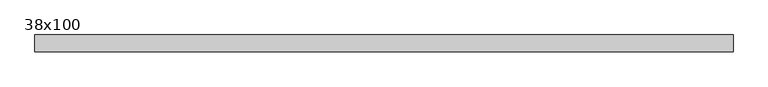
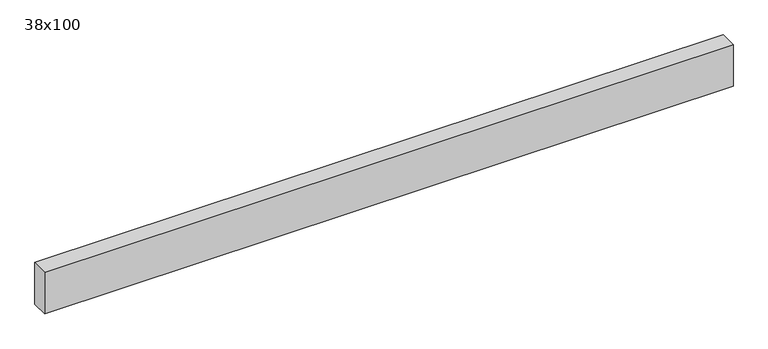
"""IFC4 building model written with IfcOpenShell, lengths in millimetres: beam geometry, Poutre - Bois de construction de dimensions courantes : 38x100."""

import ifcopenshell
import ifcopenshell.guid

model = None  # the IFC model being written
_history = None  # IfcOwnerHistory: only IFC2X3 demands one
_inside = {}  # id of a spatial element -> (the spatial element, [elements in it])
_under = {}  # id of a project, library or spatial element -> (it, [spatial elements below it])
_declared = {}  # id of a project -> (the project, [libraries it declares])
_typed = {}  # id of a type object -> (the type object, [elements of that type])
_made_of = {}  # id of a material, layer set ... -> (it, [elements and type objects made of it])


def new_model(schema):
    """Start an empty IFC model of exactly this schema.

    Asked for "IFC4X3", IfcOpenShell would pick the latest addendum, in which some entities
    have other attributes; the version numbers below select the first issue.
    IFC2X3 requires an IfcOwnerHistory on every rooted entity: one is made here for all.
    """
    global model, _history
    if schema == "IFC4X3":
        model = ifcopenshell.file(schema_version=(4, 3, 0, 0))
    else:
        model = ifcopenshell.file(schema=schema)
    _inside.clear()
    _under.clear()
    _declared.clear()
    _typed.clear()
    _made_of.clear()
    _history = None
    if model.schema == "IFC2X3":
        org = make("IfcOrganization", Name="unknown")
        user = make(
            "IfcPersonAndOrganization",
            ThePerson=make("IfcPerson", FamilyName="unknown"),
            TheOrganization=org,
        )
        app = make(
            "IfcApplication",
            ApplicationDeveloper=org,
            Version="unknown",
            ApplicationFullName="unknown",
            ApplicationIdentifier="unknown",
        )
        _history = make(
            "IfcOwnerHistory",
            OwningUser=user,
            OwningApplication=app,
            ChangeAction="ADDED",
            CreationDate=0,
        )
    return model


def make(cls, **values):
    """One entity of the class cls with the attributes given. An attribute that is None is left unset."""
    return model.create_entity(
        cls, **{name: value for name, value in values.items() if value is not None}
    )


def rooted(cls, **values):
    """An entity with a GlobalId (a new one), such as an element, a storey or a relation."""
    return make(cls, GlobalId=ifcopenshell.guid.new(), OwnerHistory=_history, **values)


def si_unit(unit_type, name, prefix=None):
    """IfcSIUnit, for example si_unit("LENGTHUNIT", "METRE", prefix="MILLI")."""
    return make("IfcSIUnit", UnitType=unit_type, Prefix=prefix, Name=name)


def assignment(units):
    """IfcUnitAssignment: the units of a project."""
    return None if units is None else make("IfcUnitAssignment", Units=units)


def point(xyz):
    """IfcCartesianPoint."""
    return None if xyz is None else make("IfcCartesianPoint", Coordinates=xyz)


def direction(xyz):
    """IfcDirection."""
    return None if xyz is None else make("IfcDirection", DirectionRatios=xyz)


def frame(location, z_axis=None, x_axis=None):
    """IfcAxis2Placement3D, a coordinate frame: its origin and axes. An axis left out is left unset."""
    return make(
        "IfcAxis2Placement3D",
        Location=point(location),
        Axis=direction(z_axis),
        RefDirection=direction(x_axis),
    )


def origin():
    """The frame at (0, 0, 0) with its axes left unset."""
    return frame((0.0, 0.0, 0.0))


def place(relative_to, where):
    """IfcLocalPlacement: puts the frame where relative to a parent placement (None: the world)."""
    return make(
        "IfcLocalPlacement", PlacementRelTo=relative_to, RelativePlacement=where
    )


def context(
    kind, dimensions, precision=None, world=None, true_north=None, identifier=None
):
    """IfcGeometricRepresentationContext, for example the 3D "Model" context."""
    return make(
        "IfcGeometricRepresentationContext",
        ContextIdentifier=identifier,
        ContextType=kind,
        CoordinateSpaceDimension=dimensions,
        Precision=precision,
        WorldCoordinateSystem=world,
        TrueNorth=true_north,
    )


def project(units=None, contexts=None):
    """IfcProject with its units and contexts."""
    return rooted(
        "IfcProject",
        Name="project",
        RepresentationContexts=contexts,
        UnitsInContext=assignment(units),
    )


def spatial(cls, under=None, at=None, **own):
    """A site, building, storey or space (cls), placed at a placement, below another one or the project."""
    s = rooted(cls, ObjectPlacement=at, **own)
    if under is not None:
        _under.setdefault(under.id(), (under, []))[1].append(s)
    return s


def polyline(points):
    """IfcPolyline through the points."""
    return make("IfcPolyline", Points=[point(p) for p in points])


def outline(outer, holes=None, kind="AREA"):
    """IfcArbitraryClosedProfileDef: a profile drawn as a closed curve; with holes, ...WithVoids."""
    if holes is None:
        return make("IfcArbitraryClosedProfileDef", ProfileType=kind, OuterCurve=outer)
    return make(
        "IfcArbitraryProfileDefWithVoids",
        ProfileType=kind,
        OuterCurve=outer,
        InnerCurves=holes,
    )


def extrude(swept, where, along, depth):
    """IfcExtrudedAreaSolid: the profile swept, set in the frame where, extruded along a direction by depth."""
    return make(
        "IfcExtrudedAreaSolid",
        SweptArea=swept,
        Position=where,
        ExtrudedDirection=direction(along),
        Depth=depth,
    )


def shape(context_of_items, identifier, shape_type, items):
    """IfcShapeRepresentation: the items that make up one representation, for example the "Body"."""
    return make(
        "IfcShapeRepresentation",
        ContextOfItems=context_of_items,
        RepresentationIdentifier=identifier,
        RepresentationType=shape_type,
        Items=items,
    )


def source(mapping_origin, context_of_items, identifier, shape_type, items):
    """IfcRepresentationMap: a shape defined once, which mapped items show again and again."""
    return make(
        "IfcRepresentationMap",
        MappingOrigin=mapping_origin,
        MappedRepresentation=shape(context_of_items, identifier, shape_type, items),
    )


def transform(
    local_origin,
    x_axis=None,
    y_axis=None,
    z_axis=None,
    scale=None,
    scale2=None,
    scale3=None,
    uniform=True,
):
    """IfcCartesianTransformationOperator3D, or its non-uniform kind. x_axis, y_axis, z_axis: its Axis1, 2, 3."""
    if uniform:
        return make(
            "IfcCartesianTransformationOperator3D",
            Axis1=direction(x_axis),
            Axis2=direction(y_axis),
            LocalOrigin=point(local_origin),
            Scale=scale,
            Axis3=direction(z_axis),
        )
    return make(
        "IfcCartesianTransformationOperator3DnonUniform",
        Axis1=direction(x_axis),
        Axis2=direction(y_axis),
        LocalOrigin=point(local_origin),
        Scale=scale,
        Axis3=direction(z_axis),
        Scale2=scale2,
        Scale3=scale3,
    )


def mapped(mapping_source, mapping_target):
    """IfcMappedItem: shows the shape of a source again, moved by a transform."""
    return make(
        "IfcMappedItem", MappingSource=mapping_source, MappingTarget=mapping_target
    )


def made_of(thing, what):
    """Note that an element or type object is made of a material, layer set ...; save() writes the relation."""
    if what is not None:
        _made_of.setdefault(what.id(), (what, []))[1].append(thing)
    return thing


def element(
    cls,
    number,
    at=None,
    inside=None,
    cuts=None,
    type_object=None,
    material=None,
    context=None,
    identifier="Body",
    shape_type=None,
    held_by="IfcProductDefinitionShape",
    body=None,
    shapes=None,
    **own,
):
    """One element of the class cls, such as IfcWall. Its Tag is "e" and its number.

    at: its placement. inside: the storey or other place that contains it. cuts: it is an
    opening in that element (IfcRelVoidsElement). A single representation is given by context,
    identifier, shape_type and body (its items); several are given by shapes. held_by: the class
    of the entity that holds the representations. save() writes the other relations.
    """
    e = rooted(cls, Tag="e%d" % number, ObjectPlacement=at, **own)
    if body is not None:
        shapes = [shape(context, identifier, shape_type, body)]
    if shapes is not None:
        e.Representation = make(held_by, Representations=shapes)
    if inside is not None:
        _inside.setdefault(inside.id(), (inside, []))[1].append(e)
    if cuts is not None:
        rooted(
            "IfcRelVoidsElement", RelatingBuildingElement=cuts, RelatedOpeningElement=e
        )
    if type_object is not None:
        _typed.setdefault(type_object.id(), (type_object, []))[1].append(e)
    return made_of(e, material)


def aggregate(whole, parts):
    """IfcRelAggregates: a whole, such as a stair, and the parts it consists of."""
    return rooted("IfcRelAggregates", RelatingObject=whole, RelatedObjects=parts)


def save(model, path):
    """Write the relations noted so far, then the file.

    IfcRelAggregates (storeys below a building ...), IfcRelContainedInSpatialStructure (elements
    in a storey), IfcRelDefinesByType, IfcRelAssociatesMaterial and IfcRelDeclares: one each for
    every whole, place, type object, material and project.
    """
    for whole, parts in _under.values():
        aggregate(whole, parts)
    for where, things in _inside.values():
        rooted(
            "IfcRelContainedInSpatialStructure",
            RelatedElements=things,
            RelatingStructure=where,
        )
    for kind, things in _typed.values():
        rooted("IfcRelDefinesByType", RelatedObjects=things, RelatingType=kind)
    for what, things in _made_of.values():
        rooted("IfcRelAssociatesMaterial", RelatedObjects=things, RelatingMaterial=what)
    for by, libraries in _declared.values():
        rooted("IfcRelDeclares", RelatingContext=by, RelatedDefinitions=libraries)
    model.write(path)


def beam_38x100_9ee38598(model_context):
    return source(origin(), model_context, "Body", "SweptSolid", [
        extrude(outline(polyline([(756.5, 19.05), (756.5, -19.05), (-805.5, -19.05), (-805.5, 19.05), (756.5, 19.05)])), frame((0.0, 0.0, -50.0), z_axis=(0.0, 0.0, 1.0), x_axis=(1.0, 0.0, 0.0)), (0.0, 0.0, 1.0), 100.0),
    ])


if __name__ == "__main__":
    model = new_model("IFC4")
    model_context = context("Model", 3, world=origin())
    ifc_project = project(units=[si_unit("LENGTHUNIT", "METRE", prefix="MILLI")], contexts=[model_context])
    site = spatial("IfcSite", under=ifc_project)
    building = spatial("IfcBuilding", under=site)
    placement = place(None, origin())
    beam_38x100_shape = beam_38x100_9ee38598(model_context)
    element("IfcBeam", 1, ObjectType="Poutre - Bois de construction de dimensions courantes : 38x100", at=placement, inside=building, context=model_context, shape_type="MappedRepresentation", body=[
        mapped(beam_38x100_shape, transform((0.0, 0.0, 0.0), x_axis=(1.0, 0.0, 0.0), y_axis=(0.0, 1.0, 0.0), z_axis=(0.0, 0.0, 1.0))),
    ])
    save(model, "model.ifc")
